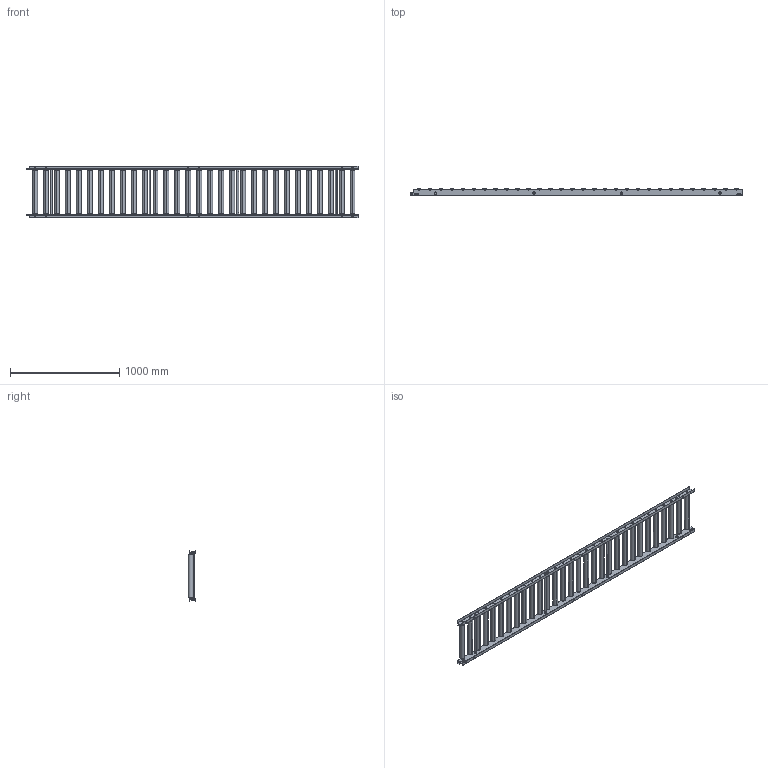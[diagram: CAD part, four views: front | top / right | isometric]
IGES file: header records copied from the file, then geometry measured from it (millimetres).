
Start section: SolidWorks IGES file using analytic representation for surfaces
Global section: file name: C:\Users\0656\Desktop\変換ツール\iges変換\RA-4515.igs; native system: SolidWorks 2023; preprocessor: SolidWorks 2023; author: 0656; date: 240226.152559; units: millimetre
Bounding box: 3033 x 70.47 x 475 mm (x, y, z)
Surface area: 4242044.1 mm2 (no closed solid volume)
Topology: 0 solids, 0 shells, 1300 faces, 27836 edges, 27836 vertices
Faces by surface type: revolution 682, bspline 618
